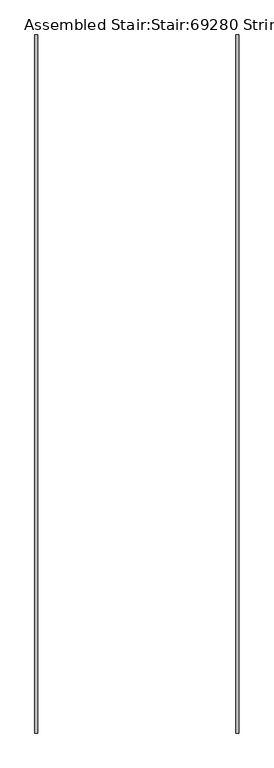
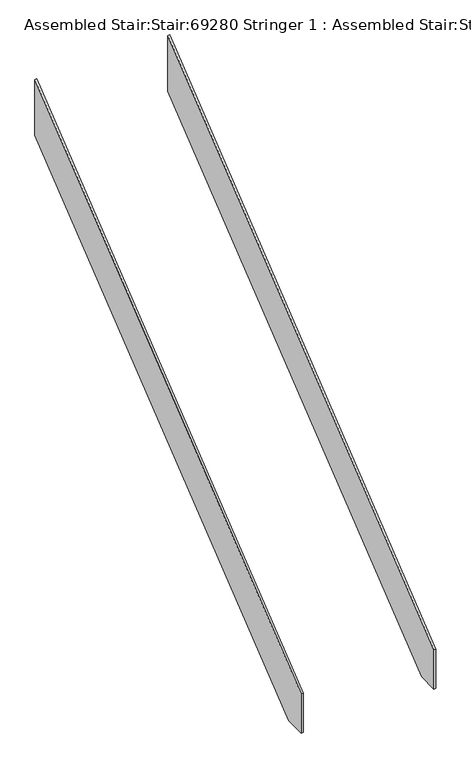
"""IFC4 building model written with IfcOpenShell, lengths in millimetres: stair geometry, Assembled Stair:Stair:69280 Stringer 1 : Assembled Stair:Stair:69280 Stringer 1."""

from ifc_helpers import new_model, si_unit, frame, origin, place, context, project, spatial, polyline, outline, extrude, source, transform, mapped, element, save


def assembled_stair_stair_69280_stringer_1_assembled_stair_stair_a96893dd(model_context):
    return source(origin(), model_context, "Body", "SweptSolid", [
        extrude(outline(polyline([(-25161.0232476, 0.0), (-25324.6322236, 0.0), (-25324.6322236, 317.4496171), (-21804.6322236, 3140.9790288), (-21804.6322236, 2692.2922652), (-25161.0232476, 0.0)])), frame((26274.8089026, 0.0, 0.0), z_axis=(1.0, 0.0, 0.0), x_axis=(0.0, 1.0, 0.0)), (0.0, 0.0, 1.0), 15.0),
        extrude(outline(polyline([(-25161.0232476, 0.0), (-25324.6322236, 0.0), (-25324.6322236, 317.4496171), (-21804.6322236, 3140.9790288), (-21804.6322236, 2692.2922652), (-25161.0232476, 0.0)])), frame((25259.8089026, 0.0, 0.0), z_axis=(1.0, 0.0, 0.0), x_axis=(0.0, 1.0, 0.0)), (0.0, 0.0, 1.0), 15.0),
    ])


if __name__ == "__main__":
    model = new_model("IFC4")
    model_context = context("Model", 3, world=origin())
    ifc_project = project(units=[si_unit("LENGTHUNIT", "METRE", prefix="MILLI")], contexts=[model_context])
    site = spatial("IfcSite", under=ifc_project)
    building = spatial("IfcBuilding", under=site)
    placement = place(None, origin())
    assembled_stair_stair_69280_stringer_1_assembled_stair_stair_shape = assembled_stair_stair_69280_stringer_1_assembled_stair_stair_a96893dd(model_context)
    element("IfcStair", 1, ObjectType="Assembled Stair:Stair:69280 Stringer 1 : Assembled Stair:Stair:69280 Stringer 1", at=placement, inside=building, context=model_context, shape_type="MappedRepresentation", body=[
        mapped(assembled_stair_stair_69280_stringer_1_assembled_stair_stair_shape, transform((0.0, 0.0, 0.0), x_axis=(1.0, 0.0, 0.0), y_axis=(0.0, 1.0, 0.0), z_axis=(0.0, 0.0, 1.0))),
    ])
    save(model, "model.ifc")
